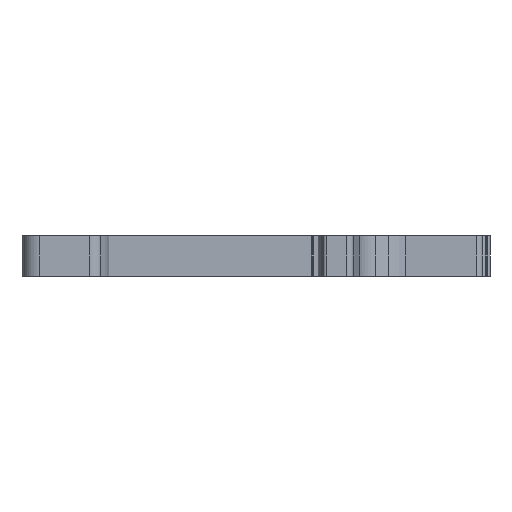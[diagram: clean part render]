
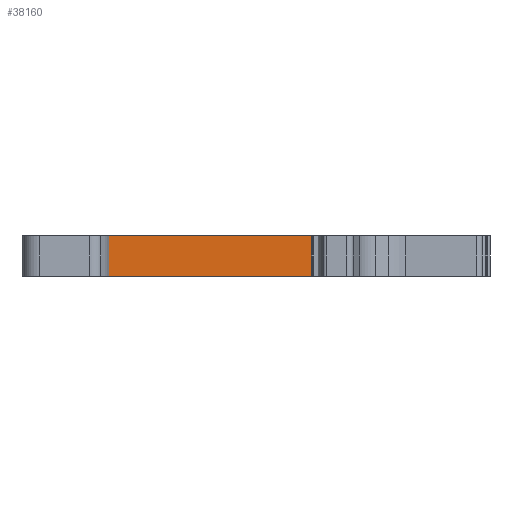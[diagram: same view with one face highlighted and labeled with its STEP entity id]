
A CAD part, front view. The second image highlights one B-rep face of the part: STEP entity #38160.
In plain terms, the highlighted planar face has unit normal (0, -1, 0).
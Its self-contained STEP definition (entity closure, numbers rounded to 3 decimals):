
#3880=CARTESIAN_POINT('',(15.1,0.,0.));
#3890=VERTEX_POINT('',#3880);
#3920=CARTESIAN_POINT('',(1.738,0.,0.));
#3930=DIRECTION('',(1.,0.,0.));
#3940=VECTOR('',#3930,1.);
#3950=LINE('',#3920,#3940);
#3960=CARTESIAN_POINT('',(-16.3,0.,0.));
#3970=VERTEX_POINT('',#3960);
#3980=EDGE_CURVE('',#3970,#3890,#3950,.T.);
#19800=CARTESIAN_POINT('',(-16.3,0.,-6.2));
#19810=VERTEX_POINT('',#19800);
#19840=CARTESIAN_POINT('',(1.738,0.,-6.2));
#19850=DIRECTION('',(1.,0.,0.));
#19860=VECTOR('',#19850,1.);
#19870=LINE('',#19840,#19860);
#19880=CARTESIAN_POINT('',(15.1,0.,-6.2));
#19890=VERTEX_POINT('',#19880);
#19900=EDGE_CURVE('',#19810,#19890,#19870,.T.);
#37840=CARTESIAN_POINT('',(-16.3,0.,0.));
#37850=DIRECTION('',(-0.,-0.,-1.));
#37860=VECTOR('',#37850,1.);
#37870=LINE('',#37840,#37860);
#37880=EDGE_CURVE('',#3970,#19810,#37870,.T.);
#38000=CARTESIAN_POINT('',(17.5,0.,0.));
#38010=DIRECTION('',(-0.,1.,0.));
#38020=DIRECTION('',(1.,0.,0.));
#38030=AXIS2_PLACEMENT_3D('',#38000,#38010,#38020);
#38040=PLANE('',#38030);
#38050=ORIENTED_EDGE('',*,*,#37880,.T.);
#38060=ORIENTED_EDGE('',*,*,#3980,.F.);
#38070=CARTESIAN_POINT('',(15.1,0.,0.));
#38080=DIRECTION('',(0.,0.,-1.));
#38090=VECTOR('',#38080,1.);
#38100=LINE('',#38070,#38090);
#38110=EDGE_CURVE('',#3890,#19890,#38100,.T.);
#38120=ORIENTED_EDGE('',*,*,#38110,.F.);
#38130=ORIENTED_EDGE('',*,*,#19900,.T.);
#38140=EDGE_LOOP('',(#38130,#38120,#38060,#38050));
#38150=FACE_OUTER_BOUND('',#38140,.T.);
#38160=ADVANCED_FACE('',(#38150),#38040,.F.);
